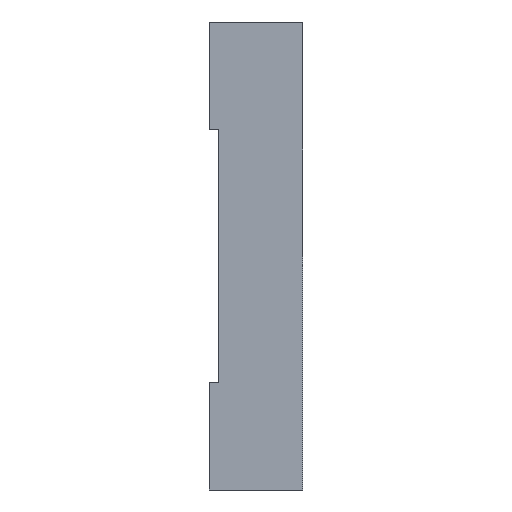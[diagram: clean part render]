
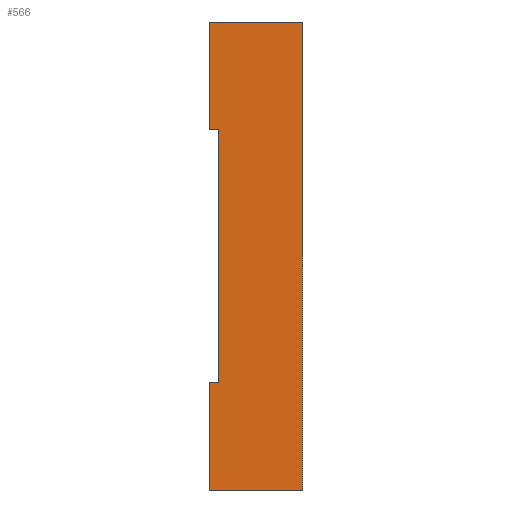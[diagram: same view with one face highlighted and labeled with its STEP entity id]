
A CAD part, left-side view. The second image highlights one B-rep face of the part: STEP entity #566.
In plain terms, the highlighted planar face has unit normal (-1, 0, 0).
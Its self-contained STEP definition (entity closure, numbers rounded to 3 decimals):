
#8 = VERTEX_POINT ( 'NONE', #493 ) ;
#42 = EDGE_CURVE ( 'NONE', #8, #1532, #1879, .T. ) ;
#128 = EDGE_CURVE ( 'NONE', #1501, #1557, #1987, .T. ) ;
#131 = EDGE_CURVE ( 'NONE', #1521, #1557, #2014, .T. ) ;
#132 = EDGE_CURVE ( 'NONE', #1599, #1521, #2015, .T. ) ;
#133 = EDGE_CURVE ( 'NONE', #1599, #1532, #2011, .T. ) ;
#134 = EDGE_CURVE ( 'NONE', #1549, #8, #2019, .T. ) ;
#135 = EDGE_CURVE ( 'NONE', #1498, #1549, #2021, .T. ) ;
#176 = AXIS2_PLACEMENT_3D ( 'NONE', #2475, #2484, #2485 ) ;
#311 = CARTESIAN_POINT ( 'NONE',  ( -68., 18., -50. ) ) ;
#312 = DIRECTION ( 'NONE',  ( 0., -1., 0. ) ) ;
#452 = CARTESIAN_POINT ( 'NONE',  ( -68., 20., -50. ) ) ;
#455 = CARTESIAN_POINT ( 'NONE',  ( -68., 0., -50. ) ) ;
#493 = CARTESIAN_POINT ( 'NONE',  ( -68., 18., -27. ) ) ;
#566 = ADVANCED_FACE ( 'NONE', ( #1259 ), #2482, .F. ) ;
#619 = CARTESIAN_POINT ( 'NONE',  ( -68., 18., -50. ) ) ;
#629 = DIRECTION ( 'NONE',  ( 0., 0., 1. ) ) ;
#806 = EDGE_CURVE ( 'NONE', #1498, #1501, #1323, .T. ) ;
#1023 = ORIENTED_EDGE ( 'NONE', *, *, #806, .T. ) ;
#1027 = ORIENTED_EDGE ( 'NONE', *, *, #128, .T. ) ;
#1029 = ORIENTED_EDGE ( 'NONE', *, *, #131, .F. ) ;
#1038 = ORIENTED_EDGE ( 'NONE', *, *, #135, .F. ) ;
#1063 = ORIENTED_EDGE ( 'NONE', *, *, #134, .F. ) ;
#1078 = ORIENTED_EDGE ( 'NONE', *, *, #133, .T. ) ;
#1165 = ORIENTED_EDGE ( 'NONE', *, *, #42, .F. ) ;
#1197 = ORIENTED_EDGE ( 'NONE', *, *, #132, .F. ) ;
#1259 = FACE_OUTER_BOUND ( 'NONE', #1689, .T. ) ;
#1323 = LINE ( 'NONE', #311, #1325 ) ;
#1325 = VECTOR ( 'NONE', #312, 1000. ) ;
#1498 = VERTEX_POINT ( 'NONE', #452 ) ;
#1501 = VERTEX_POINT ( 'NONE', #455 ) ;
#1521 = VERTEX_POINT ( 'NONE', #2490 ) ;
#1532 = VERTEX_POINT ( 'NONE', #2079 ) ;
#1549 = VERTEX_POINT ( 'NONE', #2096 ) ;
#1557 = VERTEX_POINT ( 'NONE', #2104 ) ;
#1599 = VERTEX_POINT ( 'NONE', #2146 ) ;
#1689 = EDGE_LOOP ( 'NONE', ( #1027, #1029, #1197, #1078, #1165, #1063, #1038, #1023 ) ) ;
#1879 = LINE ( 'NONE', #619, #1884 ) ;
#1884 = VECTOR ( 'NONE', #629, 1000. ) ;
#1987 = LINE ( 'NONE', #2273, #2012 ) ;
#2011 = LINE ( 'NONE', #2284, #2020 ) ;
#2012 = VECTOR ( 'NONE', #2277, 1000. ) ;
#2014 = LINE ( 'NONE', #2278, #2016 ) ;
#2015 = LINE ( 'NONE', #2288, #2018 ) ;
#2016 = VECTOR ( 'NONE', #2279, 1000. ) ;
#2018 = VECTOR ( 'NONE', #2290, 1000. ) ;
#2019 = LINE ( 'NONE', #2292, #2022 ) ;
#2020 = VECTOR ( 'NONE', #2291, 1000. ) ;
#2021 = LINE ( 'NONE', #2294, #2024 ) ;
#2022 = VECTOR ( 'NONE', #2293, 1000. ) ;
#2024 = VECTOR ( 'NONE', #2296, 1000. ) ;
#2079 = CARTESIAN_POINT ( 'NONE',  ( -68., 18., 27. ) ) ;
#2096 = CARTESIAN_POINT ( 'NONE',  ( -68., 20., -27. ) ) ;
#2104 = CARTESIAN_POINT ( 'NONE',  ( -68., 0., 50. ) ) ;
#2146 = CARTESIAN_POINT ( 'NONE',  ( -68., 20., 27. ) ) ;
#2273 = CARTESIAN_POINT ( 'NONE',  ( -68., 0., -50. ) ) ;
#2277 = DIRECTION ( 'NONE',  ( 0., 0., 1. ) ) ;
#2278 = CARTESIAN_POINT ( 'NONE',  ( -68., 18., 50. ) ) ;
#2279 = DIRECTION ( 'NONE',  ( 0., -1., 0. ) ) ;
#2284 = CARTESIAN_POINT ( 'NONE',  ( -68., 20., 27. ) ) ;
#2288 = CARTESIAN_POINT ( 'NONE',  ( -68., 20., 50. ) ) ;
#2290 = DIRECTION ( 'NONE',  ( 0., 0., 1. ) ) ;
#2291 = DIRECTION ( 'NONE',  ( 0., -1., 0. ) ) ;
#2292 = CARTESIAN_POINT ( 'NONE',  ( -68., 20., -27. ) ) ;
#2293 = DIRECTION ( 'NONE',  ( 0., -1., 0. ) ) ;
#2294 = CARTESIAN_POINT ( 'NONE',  ( -68., 20., -50. ) ) ;
#2296 = DIRECTION ( 'NONE',  ( 0., 0., 1. ) ) ;
#2475 = CARTESIAN_POINT ( 'NONE',  ( -68., 18., -50. ) ) ;
#2482 = PLANE ( 'NONE',  #176 ) ;
#2484 = DIRECTION ( 'NONE',  ( 1., 0., 0. ) ) ;
#2485 = DIRECTION ( 'NONE',  ( 0., 0., -1. ) ) ;
#2490 = CARTESIAN_POINT ( 'NONE',  ( -68., 20., 50. ) ) ;
